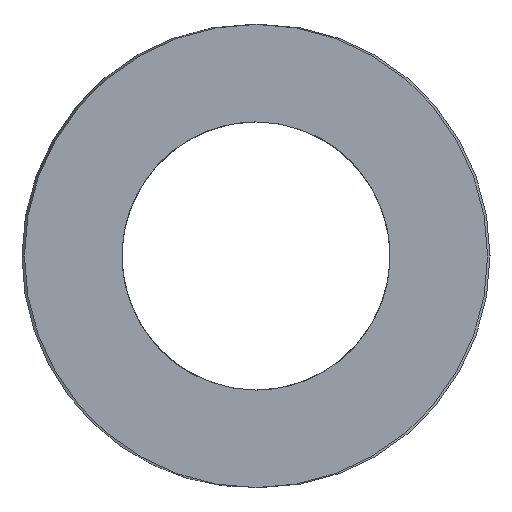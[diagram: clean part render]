
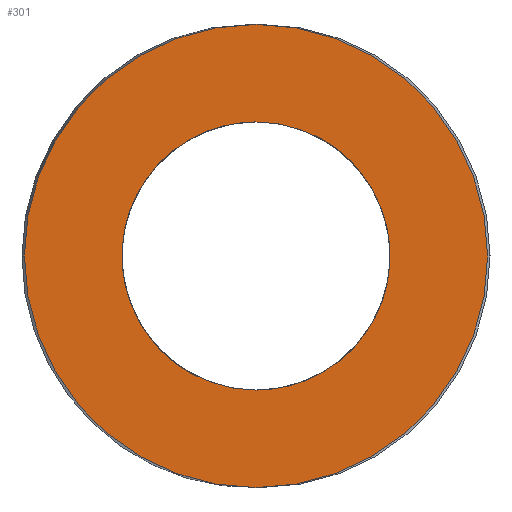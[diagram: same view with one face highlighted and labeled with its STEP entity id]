
A CAD part, left-side view. The second image highlights one B-rep face of the part: STEP entity #301.
In plain terms, the highlighted planar face has unit normal (-1, 0, 0).
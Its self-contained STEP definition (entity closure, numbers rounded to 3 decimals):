
#63=CARTESIAN_POINT('Vertex',(0.,7.6,0.)) ;
#77=CARTESIAN_POINT('Vertex',(0.,-7.6,0.)) ;
#80=CARTESIAN_POINT('Axis2P3D Location',(0.,0.,0.)) ;
#97=CARTESIAN_POINT('Axis2P3D Location',(0.,0.,0.)) ;
#232=CARTESIAN_POINT('Axis2P3D Location',(0.,3.8,0.)) ;
#242=CARTESIAN_POINT('Control Point',(0.,0.,-4.4)) ;
#243=CARTESIAN_POINT('Control Point',(0.,0.411,-4.4)) ;
#244=CARTESIAN_POINT('Control Point',(0.,0.822,-4.352)) ;
#245=CARTESIAN_POINT('Control Point',(0.,1.226,-4.256)) ;
#246=CARTESIAN_POINT('Control Point',(0.,2.003,-3.972)) ;
#247=CARTESIAN_POINT('Control Point',(0.,2.694,-3.516)) ;
#248=CARTESIAN_POINT('Control Point',(0.,3.011,-3.248)) ;
#249=CARTESIAN_POINT('Control Point',(0.,3.577,-2.644)) ;
#250=CARTESIAN_POINT('Control Point',(0.,3.988,-1.926)) ;
#251=CARTESIAN_POINT('Control Point',(0.,4.151,-1.544)) ;
#252=CARTESIAN_POINT('Control Point',(0.,4.384,-0.75)) ;
#253=CARTESIAN_POINT('Control Point',(0.,4.428,0.076)) ;
#254=CARTESIAN_POINT('Control Point',(0.,4.402,0.49)) ;
#255=CARTESIAN_POINT('Control Point',(0.,4.252,1.304)) ;
#256=CARTESIAN_POINT('Control Point',(0.,3.92,2.062)) ;
#257=CARTESIAN_POINT('Control Point',(0.,3.71,2.42)) ;
#258=CARTESIAN_POINT('Control Point',(0.,3.21,3.079)) ;
#259=CARTESIAN_POINT('Control Point',(0.,2.571,3.606)) ;
#260=CARTESIAN_POINT('Control Point',(0.,2.223,3.831)) ;
#261=CARTESIAN_POINT('Control Point',(0.,1.581,4.145)) ;
#262=CARTESIAN_POINT('Control Point',(0.,0.892,4.324)) ;
#263=CARTESIAN_POINT('Control Point',(0.,0.597,4.375)) ;
#264=CARTESIAN_POINT('Control Point',(0.,0.298,4.4)) ;
#265=CARTESIAN_POINT('Control Point',(0.,0.,4.4)) ;
#266=CARTESIAN_POINT('Vertex',(0.,0.,-4.4)) ;
#268=CARTESIAN_POINT('Vertex',(0.,0.,4.4)) ;
#272=CARTESIAN_POINT('Control Point',(0.,0.,4.4)) ;
#273=CARTESIAN_POINT('Control Point',(0.,-0.411,4.4)) ;
#274=CARTESIAN_POINT('Control Point',(0.,-0.822,4.352)) ;
#275=CARTESIAN_POINT('Control Point',(0.,-1.226,4.256)) ;
#276=CARTESIAN_POINT('Control Point',(0.,-2.003,3.972)) ;
#277=CARTESIAN_POINT('Control Point',(0.,-2.694,3.516)) ;
#278=CARTESIAN_POINT('Control Point',(0.,-3.011,3.248)) ;
#279=CARTESIAN_POINT('Control Point',(0.,-3.577,2.644)) ;
#280=CARTESIAN_POINT('Control Point',(0.,-3.988,1.926)) ;
#281=CARTESIAN_POINT('Control Point',(0.,-4.151,1.544)) ;
#282=CARTESIAN_POINT('Control Point',(0.,-4.384,0.75)) ;
#283=CARTESIAN_POINT('Control Point',(0.,-4.428,-0.076)) ;
#284=CARTESIAN_POINT('Control Point',(0.,-4.402,-0.49)) ;
#285=CARTESIAN_POINT('Control Point',(0.,-4.252,-1.304)) ;
#286=CARTESIAN_POINT('Control Point',(0.,-3.92,-2.062)) ;
#287=CARTESIAN_POINT('Control Point',(0.,-3.71,-2.42)) ;
#288=CARTESIAN_POINT('Control Point',(0.,-3.21,-3.079)) ;
#289=CARTESIAN_POINT('Control Point',(0.,-2.571,-3.606)) ;
#290=CARTESIAN_POINT('Control Point',(0.,-2.223,-3.831)) ;
#291=CARTESIAN_POINT('Control Point',(0.,-1.581,-4.145)) ;
#292=CARTESIAN_POINT('Control Point',(0.,-0.892,-4.324)) ;
#293=CARTESIAN_POINT('Control Point',(0.,-0.597,-4.375)) ;
#294=CARTESIAN_POINT('Control Point',(0.,-0.298,-4.4)) ;
#295=CARTESIAN_POINT('Control Point',(0.,0.,-4.4)) ;
#81=DIRECTION('Axis2P3D Direction',(1.,-0.,0.)) ;
#98=DIRECTION('Axis2P3D Direction',(1.,-0.,0.)) ;
#233=DIRECTION('Axis2P3D Direction',(-1.,0.,0.)) ;
#234=DIRECTION('Axis2P3D XDirection',(0.,1.,0.)) ;
#82=AXIS2_PLACEMENT_3D('Circle Axis2P3D',#80,#81,$) ;
#99=AXIS2_PLACEMENT_3D('Circle Axis2P3D',#97,#98,$) ;
#235=AXIS2_PLACEMENT_3D('Plane Axis2P3D',#232,#233,#234) ;
#238=ORIENTED_EDGE('',*,*,#84,.T.) ;
#239=ORIENTED_EDGE('',*,*,#101,.T.) ;
#298=ORIENTED_EDGE('',*,*,#270,.T.) ;
#299=ORIENTED_EDGE('',*,*,#296,.T.) ;
#300=FACE_BOUND('',#297,.T.) ;
#301=ADVANCED_FACE('392-B16-044',(#240,#300),#236,.T.) ;
#241=B_SPLINE_CURVE_WITH_KNOTS('',5,(#242,#243,#244,#245,#246,#247,#248,#249,#250,#251,#252,#253,#254,#255,#256,#257,#258,#259,#260,#261,#262,#263,#264,#265),.UNSPECIFIED.,.F.,.U.,(6,3,3,3,3,3,3,6),(0.,2.907,5.813,8.72,11.626,14.533,17.439,19.549),.UNSPECIFIED.) ;
#271=B_SPLINE_CURVE_WITH_KNOTS('',5,(#272,#273,#274,#275,#276,#277,#278,#279,#280,#281,#282,#283,#284,#285,#286,#287,#288,#289,#290,#291,#292,#293,#294,#295),.UNSPECIFIED.,.F.,.U.,(6,3,3,3,3,3,3,6),(0.,2.907,5.813,8.72,11.626,14.533,17.439,19.549),.UNSPECIFIED.) ;
#83=CIRCLE('generated circle',#82,7.6) ;
#100=CIRCLE('generated circle',#99,7.6) ;
#84=EDGE_CURVE('',#64,#78,#83,.F.) ;
#101=EDGE_CURVE('',#78,#64,#100,.F.) ;
#270=EDGE_CURVE('',#267,#269,#241,.T.) ;
#296=EDGE_CURVE('',#269,#267,#271,.T.) ;
#237=EDGE_LOOP('',(#238,#239)) ;
#297=EDGE_LOOP('',(#298,#299)) ;
#240=FACE_OUTER_BOUND('',#237,.T.) ;
#236=PLANE('Plane',#235) ;
#64=VERTEX_POINT('',#63) ;
#78=VERTEX_POINT('',#77) ;
#267=VERTEX_POINT('',#266) ;
#269=VERTEX_POINT('',#268) ;
